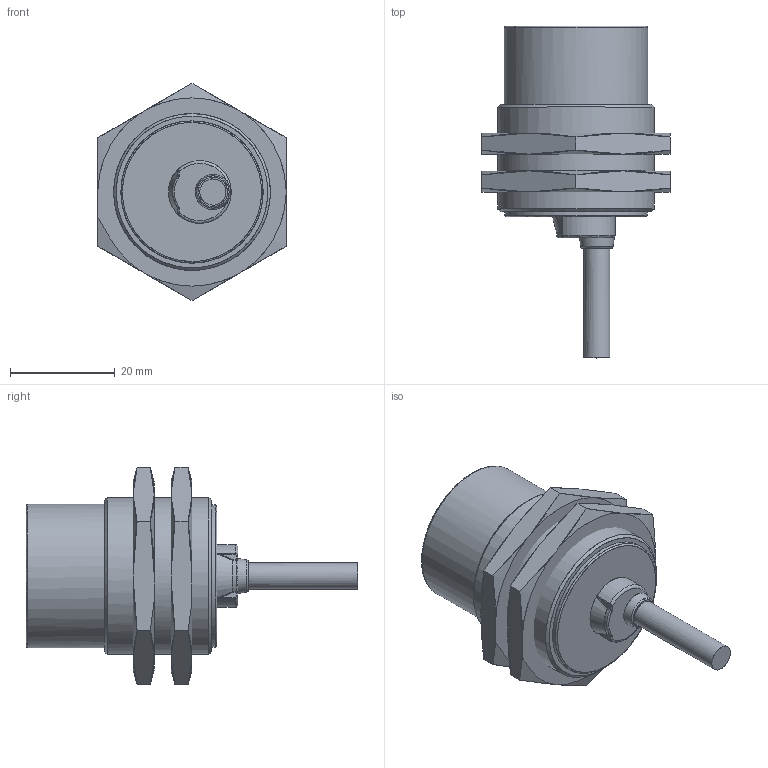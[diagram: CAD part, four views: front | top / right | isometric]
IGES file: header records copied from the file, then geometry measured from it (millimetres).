
Global section: file name: H:\lem\3DCAD_ISS_130MM_xNO_x5N.igs; native system: NX V11.0; preprocessor: SIEMENS PLM Software NX 11.0; date: 20190319.145133; units: millimetre
Bounding box: 36 x 63.5 x 41.57 mm (x, y, z)
Surface area: 13224.1 mm2 (no closed solid volume)
Topology: 0 solids, 0 shells, 121 faces, 1047 edges, 1035 vertices
Faces by surface type: bspline 121
